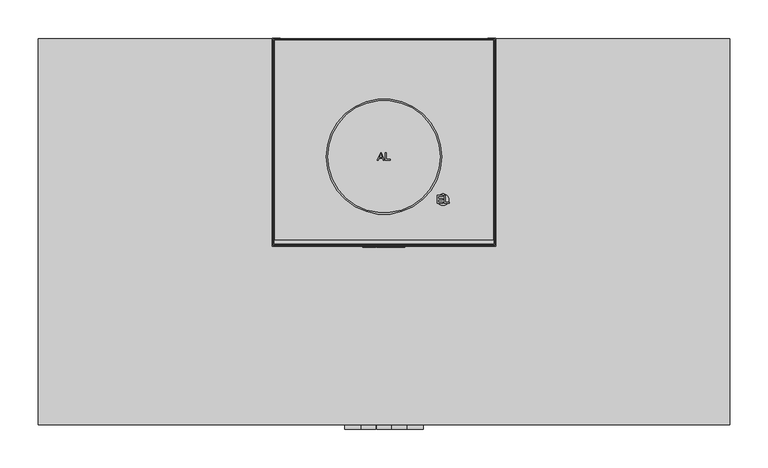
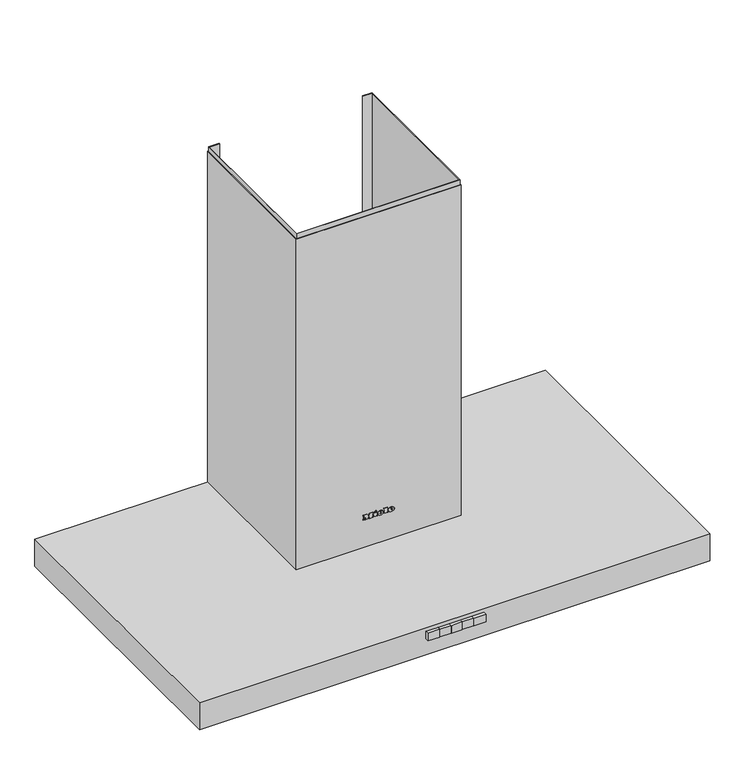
"""IFC4 building model written with IfcOpenShell, lengths in millimetres: proxy geometry, 12151130_F_DAW1920_EDST : 28W1920E_F_12151130_DAW1920_EDST."""

from ifc_helpers import new_model, si_unit, point, frame, frame_2d, origin, place, context, project, spatial, polyline, circle_curve, ellipse_curve, trimmed, segment, composite_curve, outline, extrude, faceted_brep, source, transform, mapped, element, save
from ifc_brep_helpers import plane_surface, cylinder_surface, revolved_surface, extruded_surface, advanced_brep


def specialty_equipment_0c9f008c(model_context):
    return source(origin(), model_context, "Body", "SolidModel", [
        advanced_brep(
        [(21.1132357, -270.9552709, 103.833006), (21.1132357, -270.9552709, 104.742006), (27.1342357, -270.9552709, 104.742006), (16.6582357, -270.9552709, 104.742006), (19.1332357, -270.9552709, 101.700006), (26.9812357, -270.9552709, 103.833006), (24.2632357, -270.9552709, 103.833006), (22.1212357, -270.9552709, 102.825006), (21.1132357, -270.9552709, 105.894006), (21.1132357, -270.9552709, 106.875006), (22.6522357, -270.9552709, 106.875006), (22.6522357, -270.9552709, 105.894006), (21.1132357, -269.9552709, 103.833006), (22.1212357, -269.9552709, 102.825006), (24.2632357, -269.9552709, 103.833006), (26.9812357, -269.9552709, 103.833006), (19.1332357, -269.9552709, 101.700006), (16.6582357, -269.9552709, 104.742006), (27.1342357, -269.9552709, 104.742006), (21.1132357, -269.9552709, 104.742006), (21.1132357, -269.9552709, 105.894006), (22.6522357, -269.9552709, 105.894006), (22.6522357, -269.9552709, 106.875006), (21.1132357, -269.9552709, 106.875006)],
        [
            (0, 1),
            (1, 2),
            (2, 3, ellipse_curve(frame((21.8962357, -270.9552709, 104.742006), z_axis=(0.0, -1.0, 0.0), x_axis=(-1.0, 0.0, 0.0)), 5.238, 4.329)),
            (3, 4, circle_curve(frame((20.1412848, -270.9552709, 105.048006), z_axis=(0.0, -1.0, 0.0), x_axis=(0.0, 0.0, -1.0)), 3.4964649)),
            (4, 5, circle_curve(frame((21.7913785, -270.9552709, 107.424006), z_axis=(0.0, -1.0, 0.0), x_axis=(0.0, 0.0, -1.0)), 6.3110933)),
            (5, 6),
            (6, 7, circle_curve(frame((22.5611769, -270.9552709, 104.670006), z_axis=(0.0, 1.0, 0.0), x_axis=(0.0, 0.0, -1.0)), 1.896727)),
            (7, 0, circle_curve(frame((22.1212357, -270.9552709, 103.833006), z_axis=(0.0, 1.0, 0.0), x_axis=(0.0, 0.0, -1.0)), 1.008)),
            (8, 9),
            (9, 10, circle_curve(frame((21.8827357, -270.9552709, 106.875006), z_axis=(0.0, 1.0, 0.0), x_axis=(0.0, 0.0, -1.0)), 0.7695)),
            (10, 11),
            (11, 8),
            (12, 13, circle_curve(frame((22.1212357, -269.9552709, 103.833006), z_axis=(0.0, -1.0, 0.0), x_axis=(0.0, 0.0, -1.0)), 1.008)),
            (13, 14, circle_curve(frame((22.5611769, -269.9552709, 104.670006), z_axis=(0.0, -1.0, 0.0), x_axis=(0.0, 0.0, -1.0)), 1.896727)),
            (14, 15),
            (15, 16, circle_curve(frame((21.7913785, -269.9552709, 107.424006), z_axis=(0.0, 1.0, 0.0), x_axis=(0.0, 0.0, -1.0)), 6.3110933)),
            (16, 17, circle_curve(frame((20.1412848, -269.9552709, 105.048006), z_axis=(0.0, 1.0, 0.0), x_axis=(0.0, 0.0, -1.0)), 3.4964649)),
            (17, 18, ellipse_curve(frame((21.8962357, -269.9552709, 104.742006), z_axis=(0.0, 1.0, 0.0), x_axis=(-1.0, 0.0, 0.0)), 5.238, 4.329)),
            (18, 19),
            (19, 12),
            (20, 21),
            (21, 22),
            (22, 23, circle_curve(frame((21.8827357, -269.9552709, 106.875006), z_axis=(0.0, -1.0, 0.0), x_axis=(0.0, 0.0, -1.0)), 0.7695)),
            (23, 20),
            (0, 12),
            (19, 1),
            (18, 2),
            (5, 15),
            (14, 6),
            (17, 3),
            (13, 7),
            (16, 4),
            (8, 20),
            (23, 9),
            (22, 10),
            (21, 11),
        ],
        [
            plane_surface(frame((21.1132357, -270.9552709, 104.742006), z_axis=(0.0, -1.0, 0.0), x_axis=(0.0, 0.0, 1.0))),
            plane_surface(frame((21.1132357, -269.9552709, 104.742006), z_axis=(0.0, 1.0, 0.0), x_axis=(0.0, 0.0, -1.0))),
            plane_surface(frame((21.1132357, -270.9552709, 103.833006), z_axis=(1.0, 0.0, 0.0), x_axis=(0.0, 1.0, 0.0))),
            plane_surface(frame((21.1132357, -270.9552709, 104.742006), z_axis=(0.0, 0.0, -1.0), x_axis=(0.0, 1.0, 0.0))),
            plane_surface(frame((26.9812357, -270.9552709, 103.833006), z_axis=(0.0, 0.0, 1.0), x_axis=(0.0, 1.0, 0.0))),
            extruded_surface(trimmed(ellipse_curve(frame((21.8962357, -268.9552709, 104.742006), z_axis=(0.0, -1.0, 0.0), x_axis=(-1.0, 0.0, 0.0)), 5.238, 4.329), [point((27.1342357, -268.9552709, 104.742006))], [point((16.6582357, -268.9552709, 104.742006))], True, "CARTESIAN"), (0.0, -1.0, 0.0), 1.0),
            revolved_surface(polyline([(22.5611769, -269.9552709, 102.773279), (22.5611769, -270.9552709, 102.773279)]), (22.5611769, -269.9552709, 104.670006), (0.0, 1.0, 0.0)),
            revolved_surface(polyline([(22.1212357, -269.9552709, 102.825006), (22.1212357, -270.9552709, 102.825006)]), (22.1212357, -269.9552709, 103.833006), (0.0, 1.0, 0.0)),
            cylinder_surface(frame((20.1412848, -269.9552709, 105.048006), z_axis=(0.0, -1.0, 0.0), x_axis=(0.0, 0.0, -1.0)), 3.4964649),
            cylinder_surface(frame((21.7913785, -269.9552709, 107.424006), z_axis=(0.0, -1.0, 0.0), x_axis=(0.0, 0.0, -1.0)), 6.3110933),
            plane_surface(frame((21.1132357, -270.9552709, 105.894006), z_axis=(1.0, 0.0, 0.0), x_axis=(0.0, 1.0, 0.0))),
            revolved_surface(polyline([(21.8827357, -269.9552709, 106.105506), (21.8827357, -270.9552709, 106.105506)]), (21.8827357, -269.9552709, 106.875006), (0.0, 1.0, 0.0)),
            plane_surface(frame((22.6522357, -270.9552709, 106.875006), z_axis=(-1.0, 0.0, 0.0), x_axis=(0.0, 1.0, 0.0))),
            plane_surface(frame((22.6522357, -270.9552709, 105.894006), z_axis=(0.0, 0.0, 1.0), x_axis=(0.0, 1.0, 0.0))),
        ],
        [
            (0, [[1, 2, 3, 4, 5, 6, 7, 8], [9, 10, 11, 12]]),
            (1, [[13, 14, 15, 16, 17, 18, 19, 20], [21, 22, 23, 24]]),
            (2, [[-1, 25, -20, 26]]),
            (3, [[-2, -26, -19, 27]]),
            (4, [[-6, 28, -15, 29]]),
            (5, [[-3, -27, -18, 30]]),
            (6, [[-7, -29, -14, 31]]),
            (7, [[-8, -31, -13, -25]]),
            (8, [[-4, -30, -17, 32]]),
            (9, [[-5, -32, -16, -28]]),
            (10, [[-9, 33, -24, 34]]),
            (11, [[-10, -34, -23, 35]]),
            (12, [[-11, -35, -22, 36]]),
            (13, [[-12, -36, -21, -33]]),
        ],
    ),
        advanced_brep(
        [(2.3302357, -270.9552709, 103.833006), (2.3302357, -270.9552709, 104.742006), (8.3512357, -270.9552709, 104.742006), (-2.1247643, -270.9552709, 104.742006), (0.3502357, -270.9552709, 101.700006), (8.1982357, -270.9552709, 103.833006), (5.4802357, -270.9552709, 103.833006), (3.3382357, -270.9552709, 102.825006), (2.3302357, -270.9552709, 105.894006), (2.3302357, -270.9552709, 106.875006), (3.8692357, -270.9552709, 106.875006), (3.8692357, -270.9552709, 105.894006), (2.3302357, -269.9552709, 103.833006), (3.3382357, -269.9552709, 102.825006), (5.4802357, -269.9552709, 103.833006), (8.1982357, -269.9552709, 103.833006), (0.3502357, -269.9552709, 101.700006), (-2.1247643, -269.9552709, 104.742006), (8.3512357, -269.9552709, 104.742006), (2.3302357, -269.9552709, 104.742006), (2.3302357, -269.9552709, 105.894006), (3.8692357, -269.9552709, 105.894006), (3.8692357, -269.9552709, 106.875006), (2.3302357, -269.9552709, 106.875006)],
        [
            (0, 1),
            (1, 2),
            (2, 3, ellipse_curve(frame((3.1132357, -270.9552709, 104.742006), z_axis=(0.0, -1.0, 0.0), x_axis=(-1.0, 0.0, 0.0)), 5.238, 4.329)),
            (3, 4, circle_curve(frame((1.3582848, -270.9552709, 105.048006), z_axis=(0.0, -1.0, 0.0), x_axis=(0.0, 0.0, -1.0)), 3.4964649)),
            (4, 5, circle_curve(frame((3.0083785, -270.9552709, 107.424006), z_axis=(0.0, -1.0, 0.0), x_axis=(0.0, 0.0, -1.0)), 6.3110933)),
            (5, 6),
            (6, 7, circle_curve(frame((3.7781769, -270.9552709, 104.670006), z_axis=(0.0, 1.0, 0.0), x_axis=(0.0, 0.0, -1.0)), 1.896727)),
            (7, 0, circle_curve(frame((3.3382357, -270.9552709, 103.833006), z_axis=(0.0, 1.0, 0.0), x_axis=(0.0, 0.0, -1.0)), 1.008)),
            (8, 9),
            (9, 10, circle_curve(frame((3.0997357, -270.9552709, 106.875006), z_axis=(0.0, 1.0, 0.0), x_axis=(0.0, 0.0, -1.0)), 0.7695)),
            (10, 11),
            (11, 8),
            (12, 13, circle_curve(frame((3.3382357, -269.9552709, 103.833006), z_axis=(0.0, -1.0, 0.0), x_axis=(0.0, 0.0, -1.0)), 1.008)),
            (13, 14, circle_curve(frame((3.7781769, -269.9552709, 104.670006), z_axis=(0.0, -1.0, 0.0), x_axis=(0.0, 0.0, -1.0)), 1.896727)),
            (14, 15),
            (15, 16, circle_curve(frame((3.0083785, -269.9552709, 107.424006), z_axis=(0.0, 1.0, 0.0), x_axis=(0.0, 0.0, -1.0)), 6.3110933)),
            (16, 17, circle_curve(frame((1.3582848, -269.9552709, 105.048006), z_axis=(0.0, 1.0, 0.0), x_axis=(0.0, 0.0, -1.0)), 3.4964649)),
            (17, 18, ellipse_curve(frame((3.1132357, -269.9552709, 104.742006), z_axis=(0.0, 1.0, 0.0), x_axis=(-1.0, 0.0, 0.0)), 5.238, 4.329)),
            (18, 19),
            (19, 12),
            (20, 21),
            (21, 22),
            (22, 23, circle_curve(frame((3.0997357, -269.9552709, 106.875006), z_axis=(0.0, -1.0, 0.0), x_axis=(0.0, 0.0, -1.0)), 0.7695)),
            (23, 20),
            (0, 12),
            (19, 1),
            (18, 2),
            (5, 15),
            (14, 6),
            (17, 3),
            (13, 7),
            (16, 4),
            (8, 20),
            (23, 9),
            (22, 10),
            (21, 11),
        ],
        [
            plane_surface(frame((2.3302357, -270.9552709, 104.742006), z_axis=(0.0, -1.0, 0.0), x_axis=(0.0, 0.0, 1.0))),
            plane_surface(frame((2.3302357, -269.9552709, 104.742006), z_axis=(0.0, 1.0, 0.0), x_axis=(0.0, 0.0, -1.0))),
            plane_surface(frame((2.3302357, -270.9552709, 103.833006), z_axis=(1.0, 0.0, 0.0), x_axis=(0.0, 1.0, 0.0))),
            plane_surface(frame((2.3302357, -270.9552709, 104.742006), z_axis=(0.0, 0.0, -1.0), x_axis=(0.0, 1.0, 0.0))),
            plane_surface(frame((8.1982357, -270.9552709, 103.833006), z_axis=(0.0, 0.0, 1.0), x_axis=(0.0, 1.0, 0.0))),
            extruded_surface(trimmed(ellipse_curve(frame((3.1132357, -268.9552709, 104.742006), z_axis=(0.0, -1.0, 0.0), x_axis=(-1.0, 0.0, 0.0)), 5.238, 4.329), [point((8.3512357, -268.9552709, 104.742006))], [point((-2.1247643, -268.9552709, 104.742006))], True, "CARTESIAN"), (0.0, -1.0, 0.0), 1.0),
            revolved_surface(polyline([(3.7781769, -269.9552709, 102.773279), (3.7781769, -270.9552709, 102.773279)]), (3.7781769, -269.9552709, 104.670006), (0.0, 1.0, 0.0)),
            revolved_surface(polyline([(3.3382357, -269.9552709, 102.825006), (3.3382357, -270.9552709, 102.825006)]), (3.3382357, -269.9552709, 103.833006), (0.0, 1.0, 0.0)),
            cylinder_surface(frame((1.3582848, -269.9552709, 105.048006), z_axis=(0.0, -1.0, 0.0), x_axis=(0.0, 0.0, -1.0)), 3.4964649),
            cylinder_surface(frame((3.0083785, -269.9552709, 107.424006), z_axis=(0.0, -1.0, 0.0), x_axis=(0.0, 0.0, -1.0)), 6.3110933),
            plane_surface(frame((2.3302357, -270.9552709, 105.894006), z_axis=(1.0, 0.0, 0.0), x_axis=(0.0, 1.0, 0.0))),
            revolved_surface(polyline([(3.0997357, -269.9552709, 106.105506), (3.0997357, -270.9552709, 106.105506)]), (3.0997357, -269.9552709, 106.875006), (0.0, 1.0, 0.0)),
            plane_surface(frame((3.8692357, -270.9552709, 106.875006), z_axis=(-1.0, 0.0, 0.0), x_axis=(0.0, 1.0, 0.0))),
            plane_surface(frame((3.8692357, -270.9552709, 105.894006), z_axis=(0.0, 0.0, 1.0), x_axis=(0.0, 1.0, 0.0))),
        ],
        [
            (0, [[1, 2, 3, 4, 5, 6, 7, 8], [9, 10, 11, 12]]),
            (1, [[13, 14, 15, 16, 17, 18, 19, 20], [21, 22, 23, 24]]),
            (2, [[-1, 25, -20, 26]]),
            (3, [[-2, -26, -19, 27]]),
            (4, [[-6, 28, -15, 29]]),
            (5, [[-3, -27, -18, 30]]),
            (6, [[-7, -29, -14, 31]]),
            (7, [[-8, -31, -13, -25]]),
            (8, [[-4, -30, -17, 32]]),
            (9, [[-5, -32, -16, -28]]),
            (10, [[-9, 33, -24, 34]]),
            (11, [[-10, -34, -23, 35]]),
            (12, [[-11, -35, -22, 36]]),
            (13, [[-12, -36, -21, -33]]),
        ],
    ),
        extrude(outline(polyline([(110.169006, -7.5067643), (108.711006, -6.8227643), (110.133006, -3.7717643), (111.591006, -4.4467643), (110.169006, -7.5067643)])), frame((0.0, -270.9552709, 0.0), z_axis=(0.0, 1.0, 0.0), x_axis=(0.0, 0.0, 1.0)), (0.0, 0.0, 1.0), 1.0),
        extrude(outline(polyline([(108.513006, -9.7297643), (106.902006, -9.7297643), (106.902006, -8.6587643), (103.212006, -8.6587643), (103.212006, -9.7297643), (101.700006, -9.7297643), (101.700006, -2.6287643), (103.212006, -2.6287643), (103.212006, -3.6727643), (108.513006, -3.6727643), (108.513006, -9.7297643)])), frame((0.0, -270.9552709, 0.0), z_axis=(0.0, 1.0, 0.0), x_axis=(0.0, 0.0, 1.0)), (0.0, 0.0, 1.0), 1.0),
        extrude(outline(polyline([(109.233006, 8.8552357), (109.233006, 9.9352357), (103.212006, 9.9352357), (103.212006, 8.8552357), (101.700006, 8.8552357), (101.700006, 16.1542357), (103.212006, 16.1542357), (103.212006, 15.0472357), (110.700006, 15.0472357), (110.700006, 8.8552357), (109.233006, 8.8552357)])), frame((0.0, -270.9552709, 0.0), z_axis=(0.0, 1.0, 0.0), x_axis=(0.0, 0.0, 1.0)), (0.0, 0.0, 1.0), 1.0),
        extrude(outline(polyline([(109.233006, -27.6667643), (109.233006, -26.5777643), (103.212006, -26.5777643), (103.212006, -27.6667643), (101.700006, -27.6667643), (101.700006, -23.7067643), (103.212006, -23.7067643), (103.212006, -24.7867643), (107.0341308, -24.7867643), (101.700006, -20.7637643), (107.1402283, -16.7227643), (103.212006, -16.7227643), (103.212006, -17.8297643), (101.700006, -17.8297643), (101.700006, -10.6477643), (103.212006, -10.6477643), (103.212006, -11.7907643), (109.233006, -11.7907643), (109.233006, -10.6477643), (110.700006, -10.6477643), (110.700006, -16.1287643), (107.325006, -18.7567643), (110.700006, -21.3937643), (110.700006, -27.6667643), (109.233006, -27.6667643)])), frame((0.0, -270.9552709, 0.0), z_axis=(0.0, 1.0, 0.0), x_axis=(0.0, 0.0, 1.0)), (0.0, 0.0, 1.0), 1.0),
        extrude(outline(polyline([(297.3, -444.6999706), (264.3, -444.6999706), (264.3, -398.7289627), (297.3, -398.7289627), (297.3, -444.6999706)]), holes=[polyline([(290.8, -415.7452067), (290.8, -405.7452067), (270.8, -405.7452067), (270.8, -415.7452067), (290.8, -415.7452067)])]), frame((0.0, 0.0, 2.5142839), z_axis=(0.0, 0.0, 1.0), x_axis=(1.0, 0.0, 0.0)), (0.0, 0.0, 1.0), 2.0),
        extrude(outline(polyline([(-18.3, -444.6999706), (-18.3, -399.6999706), (14.7, -399.6999706), (14.7, -444.6999706), (-18.3, -444.6999706)]), holes=[polyline([(-11.8, -415.6545073), (8.2, -415.6545073), (8.2, -405.6545073), (-11.8, -405.6545073), (-11.8, -415.6545073)])]), frame((0.0, 0.0, 2.5142839), z_axis=(0.0, 0.0, 1.0), x_axis=(1.0, 0.0, 0.0)), (0.0, 0.0, 1.0), 2.0),
        extrude(outline(polyline([(129.0, -444.6999706), (-131.0, -444.6999706), (-131.0, -24.6999706), (129.0, -24.6999706), (129.0, -444.6999706)])), frame((0.0, 0.0, 4.5142839), z_axis=(0.0, 0.0, 1.0), x_axis=(1.0, 0.0, 0.0)), (0.0, 0.0, 1.0), 4.6188552),
        extrude(outline(polyline([(411.0, -444.6999706), (149.0, -444.6999706), (149.0, -24.6999706), (411.0, -24.6999706), (411.0, -444.6999706)])), frame((0.0, 0.0, 4.5142839), z_axis=(0.0, 0.0, 1.0), x_axis=(1.0, 0.0, 0.0)), (0.0, 0.0, 1.0), 4.6188552),
        extrude(outline(polyline([(-265.7, -444.6999706), (-298.7, -444.6999706), (-298.7, -399.6999706), (-265.7, -399.6999706), (-265.7, -444.6999706)]), holes=[polyline([(-272.2, -415.6999706), (-272.2, -405.6999706), (-292.2, -405.6999706), (-292.2, -415.6999706), (-272.2, -415.6999706)])]), frame((0.0, 0.0, 2.5142839), z_axis=(0.0, 0.0, 1.0), x_axis=(1.0, 0.0, 0.0)), (0.0, 0.0, 1.0), 2.0),
        extrude(outline(polyline([(-150.25, -444.6999706), (-411.0, -444.6999706), (-411.0, -24.6999706), (-150.25, -24.6999706), (-150.25, -444.6999706)])), frame((0.0, 0.0, 4.5142839), z_axis=(0.0, 0.0, 1.0), x_axis=(1.0, 0.0, 0.0)), (0.0, 0.0, 1.0), 4.6188552),
        extrude(outline(polyline([(422.0, -14.6999706), (422.0, -454.6999706), (139.0, -454.6999706), (139.0, -14.6999706), (422.0, -14.6999706)]), holes=[polyline([(411.0, -24.6999706), (149.0, -24.6999706), (149.0, -444.6999706), (411.0, -444.6999706), (411.0, -24.6999706)])]), frame((0.0, 0.0, 2.5142839), z_axis=(0.0, 0.0, 1.0), x_axis=(1.0, 0.0, 0.0)), (0.0, 0.0, 1.0), 8.0),
        extrude(outline(polyline([(-141.0, -14.6999706), (139.0, -14.6999706), (139.0, -454.6999706), (-141.0, -454.6999706), (-141.0, -14.6999706)]), holes=[polyline([(-131.0, -24.6999706), (-131.0, -444.6999706), (129.0, -444.6999706), (129.0, -24.6999706), (-131.0, -24.6999706)])]), frame((0.0, 0.0, 2.5142839), z_axis=(0.0, 0.0, 1.0), x_axis=(1.0, 0.0, 0.0)), (0.0, 0.0, 1.0), 8.0),
        extrude(outline(polyline([(-141.0, -14.6999706), (-141.0, -454.6999706), (-422.0, -454.6999706), (-422.0, -14.6999706), (-141.0, -14.6999706)]), holes=[polyline([(-150.25, -24.6999706), (-411.0, -24.6999706), (-411.0, -444.6999706), (-150.25, -444.6999706), (-150.25, -24.6999706)])]), frame((0.0, 0.0, 2.5142839), z_axis=(0.0, 0.0, 1.0), x_axis=(1.0, 0.0, 0.0)), (0.0, 0.0, 1.0), 8.0),
        extrude(outline(polyline([(-8.547125, -158.4497039), (-4.5372113, -148.4040729), (-3.4679009, -148.4040729), (0.5420128, -158.4497039), (-0.7848149, -158.4497039), (-1.9350593, -155.3104442), (-6.0725055, -155.3104442), (-7.2202973, -158.4497039), (-8.547125, -158.4497039)]), holes=[polyline([(-5.6114267, -154.0547404), (-2.3936855, -154.0547404), (-3.2986752, -151.5850259), (-4.0025561, -149.6597768), (-4.6279555, -151.3692018), (-5.6114267, -154.0547404)])]), frame((0.0, 0.0, 363.7204361), z_axis=(0.0, 0.0, 1.0), x_axis=(1.0, 0.0, 0.0)), (0.0, 0.0, 1.0), 1.0),
        extrude(outline(polyline([(1.8835558, -158.4497039), (1.8835558, -148.4040729), (3.1392597, -148.4040729), (3.1392597, -157.194), (8.1620752, -157.194), (8.1620752, -158.4497039), (1.8835558, -158.4497039)])), frame((0.0, 0.0, 363.7204361), z_axis=(0.0, 0.0, 1.0), x_axis=(1.0, 0.0, 0.0)), (0.0, 0.0, 1.0), 1.0),
        extrude(outline(polyline([(126.8315925, -0.6756569), (126.8315925, -1.8), (-125.3469318, -1.8), (-125.3469318, -0.6756569), (126.8315925, -0.6756569)])), frame((0.0, 0.0, 329.2146808), z_axis=(0.0, 0.0, 1.0), x_axis=(1.0, 0.0, 0.0)), (0.0, 0.0, 1.0), 44.4181046),
        extrude(outline(composite_curve([segment(trimmed(circle_curve(frame_2d((0.0, -153.4497039)), 75.0), [point((-75.0, -153.4497039))], [point((75.0, -153.4497039))], False, "CARTESIAN"), True, "CONTINUOUS"), segment(trimmed(circle_curve(frame_2d((0.0, -153.4497039)), 75.0), [point((75.0, -153.4497039))], [point((-75.0, -153.4497039))], False, "CARTESIAN"), True, "CONTINUOUS")], self_intersect=False), holes=[composite_curve([segment(trimmed(circle_curve(frame_2d((0.0, -153.4497039)), 73.0), [point((-73.0, -153.4497039))], [point((73.0, -153.4497039))], True, "CARTESIAN"), True, "CONTINUOUS"), segment(trimmed(circle_curve(frame_2d((0.0, -153.4497039)), 73.0), [point((73.0, -153.4497039))], [point((-73.0, -153.4497039))], True, "CARTESIAN"), True, "CONTINUOUS")], self_intersect=False)]), frame((0.0, 0.0, 329.2146808), z_axis=(0.0, 0.0, 1.0), x_axis=(1.0, 0.0, 0.0)), (0.0, 0.0, 1.0), 34.5057553),
        extrude(outline(polyline([(141.6999908, -1.8), (141.6999908, -261.3684259), (-141.6505435, -261.3684259), (-141.6505435, -1.8), (141.6999908, -1.8)])), frame((0.0, 0.0, 50.0), z_axis=(0.0, 0.0, 1.0), x_axis=(1.0, 0.0, 0.0)), (0.0, 0.0, 1.0), 279.2146808),
        extrude(outline(polyline([(119.0499925, -472.5999789), (119.0499925, -485.2000092), (-119.2499968, -485.2000092), (-119.2499968, -472.5999789), (119.0499925, -472.5999789)])), frame((0.0, 0.0, -2.4874173), z_axis=(0.0, 0.0, 1.0), x_axis=(1.0, 0.0, 0.0)), (0.0, 0.0, 1.0), 0.8016802),
        extrude(outline(polyline([(125.0000018, -465.8999882), (125.0000018, -491.9), (-125.0000001, -491.9), (-125.0000001, -465.8999882), (125.0000018, -465.8999882)])), frame((0.0, 0.0, -2.2857372), z_axis=(0.0, 0.0, 1.0), x_axis=(1.0, 0.0, 0.0)), (0.0, 0.0, 1.0), 2.2857372),
        faceted_brep([(-143.7500547, -0.8, 673.0), (-143.7500547, -268.0552779, 673.0), (143.7499475, -268.0552779, 673.0), (143.7499475, -0.8, 673.0), (126.8315925, -0.8, 673.0), (126.8315925, -1.8, 673.0), (143.1499568, -1.8, 673.0), (143.1499568, -267.4552782, 673.0), (-143.1500459, -267.4552782, 673.0), (-143.1500459, -1.8, 673.0), (-125.3469318, -1.8, 673.0), (-125.3469318, -0.8, 673.0), (-143.7500547, -0.8, 197.2146808), (-125.3469318, -0.8, 197.2146808), (-125.3469318, -1.8, 197.2146808), (-143.1500459, -1.8, 197.2146808), (-143.1500459, -267.4552782, 197.2146808), (143.1499568, -267.4552782, 197.2146808), (143.1499568, -1.8, 197.2146808), (126.8315925, -1.8, 197.2146808), (126.8315925, -0.8, 197.2146808), (143.7499475, -0.8, 197.2146808), (143.7499475, -268.0552779, 197.2146808), (-143.7500547, -268.0552779, 197.2146808), (-143.7500547, -75.0, 329.2146808), (-143.7500547, -75.0, 234.2146808), (-143.7500547, -70.0, 234.2146808), (-143.7500547, -70.0, 329.2146808), (-143.7500547, -60.0, 329.2146808), (-143.7500547, -60.0, 234.2146808), (-143.7500547, -55.0, 234.2146808), (-143.7500547, -55.0, 329.2146808), (-143.7500547, -45.0, 329.2146808), (-143.7500547, -45.0, 234.2146808), (-143.7500547, -40.0, 234.2146808), (-143.7500547, -40.0, 329.2146808), (-143.7500547, -30.0, 329.2146808), (-143.7500547, -30.0, 234.2146808), (-143.7500547, -25.0, 234.2146808), (-143.7500547, -25.0, 329.2146808), (-143.7500547, -190.0, 234.2146808), (-143.7500547, -190.0, 329.2146808), (-143.7500547, -195.0, 329.2146808), (-143.7500547, -195.0, 234.2146808), (-143.7500547, -205.0, 234.2146808), (-143.7500547, -205.0, 329.2146808), (-143.7500547, -210.0, 329.2146808), (-143.7500547, -210.0, 234.2146808), (-143.7500547, -220.0, 234.2146808), (-143.7500547, -220.0, 329.2146808), (-143.7500547, -225.0, 329.2146808), (-143.7500547, -225.0, 234.2146808), (-143.7500547, -235.0, 234.2146808), (-143.7500547, -235.0, 329.2146808), (-143.7500547, -240.0, 329.2146808), (-143.7500547, -240.0, 234.2146808), (-143.7500547, -250.0, 234.2146808), (-143.7500547, -250.0, 329.2146808), (-143.7500547, -255.0, 329.2146808), (-143.7500547, -255.0, 234.2146808), (-143.7500547, -15.0, 329.2146808), (-143.7500547, -15.0, 234.2146808), (-143.7500547, -10.0, 234.2146808), (-143.7500547, -10.0, 329.2146808), (-143.7500547, -135.0, 329.2146808), (-143.7500547, -135.0, 234.2146808), (-143.7500547, -130.0, 234.2146808), (-143.7500547, -130.0, 329.2146808), (-143.7500547, -160.0, 234.2146808), (-143.7500547, -160.0, 329.2146808), (-143.7500547, -165.0, 329.2146808), (-143.7500547, -165.0, 234.2146808), (-143.7500547, -175.0, 234.2146808), (-143.7500547, -175.0, 329.2146808), (-143.7500547, -180.0, 329.2146808), (-143.7500547, -180.0, 234.2146808), (-143.7500547, -120.0, 329.2146808), (-143.7500547, -120.0, 234.2146808), (-143.7500547, -115.0, 234.2146808), (-143.7500547, -115.0, 329.2146808), (-143.7500547, -105.0, 329.2146808), (-143.7500547, -105.0, 234.2146808), (-143.7500547, -100.0, 234.2146808), (-143.7500547, -100.0, 329.2146808), (-143.7500547, -90.0, 329.2146808), (-143.7500547, -90.0, 234.2146808), (-143.7500547, -85.0, 234.2146808), (-143.7500547, -85.0, 329.2146808), (-143.7500547, -145.0, 234.2146808), (-143.7500547, -145.0, 329.2146808), (-143.7500547, -150.0, 329.2146808), (-143.7500547, -150.0, 234.2146808), (-83.4489473, -268.0552779, 329.2146808), (-78.4440871, -268.0552779, 329.2146808), (-78.4440871, -268.0552779, 234.2146808), (-83.4489473, -268.0552779, 234.2146808), (-68.4489473, -268.0552779, 329.2146808), (-63.4440871, -268.0552779, 329.2146808), (-63.4440871, -268.0552779, 234.2146808), (-68.4489473, -268.0552779, 234.2146808), (-53.4489473, -268.0552779, 329.2146808), (-48.4440871, -268.0552779, 329.2146808), (-48.4440871, -268.0552779, 234.2146808), (-53.4489473, -268.0552779, 234.2146808), (-38.4489473, -268.0552779, 329.2146808), (-33.4440871, -268.0552779, 329.2146808), (-33.4440871, -268.0552779, 234.2146808), (-38.4489473, -268.0552779, 234.2146808), (-23.4489473, -268.0552779, 329.2146808), (-18.4440871, -268.0552779, 329.2146808), (-18.4440871, -268.0552779, 234.2146808), (-23.4489473, -268.0552779, 234.2146808), (-98.4489473, -268.0552779, 329.2146808), (-93.4440871, -268.0552779, 329.2146808), (-93.4440871, -268.0552779, 234.2146808), (-98.4489473, -268.0552779, 234.2146808), (-113.4489473, -268.0552779, 329.2146808), (-108.4440871, -268.0552779, 329.2146808), (-108.4440871, -268.0552779, 234.2146808), (-113.4489473, -268.0552779, 234.2146808), (-8.4489473, -268.0552779, 329.2146808), (-3.4440871, -268.0552779, 329.2146808), (-3.4440871, -268.0552779, 234.2146808), (-8.4489473, -268.0552779, 234.2146808), (6.5510527, -268.0552779, 329.2146808), (11.5559129, -268.0552779, 329.2146808), (11.5559129, -268.0552779, 234.2146808), (6.5510527, -268.0552779, 234.2146808), (21.5510527, -268.0552779, 329.2146808), (26.5559129, -268.0552779, 329.2146808), (26.5559129, -268.0552779, 234.2146808), (21.5510527, -268.0552779, 234.2146808), (36.5510527, -268.0552779, 329.2146808), (41.5559129, -268.0552779, 329.2146808), (41.5559129, -268.0552779, 234.2146808), (36.5510527, -268.0552779, 234.2146808), (51.5510527, -268.0552779, 329.2146808), (56.5559129, -268.0552779, 329.2146808), (56.5559129, -268.0552779, 234.2146808), (51.5510527, -268.0552779, 234.2146808), (66.5510527, -268.0552779, 329.2146808), (71.5559129, -268.0552779, 329.2146808), (71.5559129, -268.0552779, 234.2146808), (66.5510527, -268.0552779, 234.2146808), (81.5510527, -268.0552779, 329.2146808), (86.5559129, -268.0552779, 329.2146808), (86.5559129, -268.0552779, 234.2146808), (81.5510527, -268.0552779, 234.2146808), (96.5510527, -268.0552779, 329.2146808), (101.5559129, -268.0552779, 329.2146808), (101.5559129, -268.0552779, 234.2146808), (96.5510527, -268.0552779, 234.2146808), (126.5510527, -268.0552779, 329.2146808), (131.5559129, -268.0552779, 329.2146808), (131.5559129, -268.0552779, 234.2146808), (126.5510527, -268.0552779, 234.2146808), (-128.4489473, -268.0552779, 329.2146808), (-123.4440871, -268.0552779, 329.2146808), (-123.4440871, -268.0552779, 234.2146808), (-128.4489473, -268.0552779, 234.2146808), (111.5510527, -268.0552779, 329.2146808), (116.5559129, -268.0552779, 329.2146808), (116.5559129, -268.0552779, 234.2146808), (111.5510527, -268.0552779, 234.2146808), (143.7499475, -205.0, 329.2146808), (143.7499475, -205.0, 234.2146808), (143.7499475, -210.0, 234.2146808), (143.7499475, -210.0, 329.2146808), (143.7499475, -220.0, 329.2146808), (143.7499475, -220.0, 234.2146808), (143.7499475, -225.0, 234.2146808), (143.7499475, -225.0, 329.2146808), (143.7499475, -45.0, 234.2146808), (143.7499475, -45.0, 329.2146808), (143.7499475, -40.0, 329.2146808), (143.7499475, -40.0, 234.2146808), (143.7499475, -30.0, 234.2146808), (143.7499475, -30.0, 329.2146808), (143.7499475, -25.0, 329.2146808), (143.7499475, -25.0, 234.2146808), (143.7499475, -235.0, 329.2146808), (143.7499475, -235.0, 234.2146808), (143.7499475, -240.0, 234.2146808), (143.7499475, -240.0, 329.2146808), (143.7499475, -250.0, 329.2146808), (143.7499475, -250.0, 234.2146808), (143.7499475, -255.0, 234.2146808), (143.7499475, -255.0, 329.2146808), (143.7499475, -120.0, 234.2146808), (143.7499475, -120.0, 329.2146808), (143.7499475, -115.0, 329.2146808), (143.7499475, -115.0, 234.2146808), (143.7499475, -145.0, 329.2146808), (143.7499475, -145.0, 234.2146808), (143.7499475, -150.0, 234.2146808), (143.7499475, -150.0, 329.2146808), (143.7499475, -135.0, 234.2146808), (143.7499475, -135.0, 329.2146808), (143.7499475, -130.0, 329.2146808), (143.7499475, -130.0, 234.2146808), (143.7499475, -160.0, 329.2146808), (143.7499475, -160.0, 234.2146808), (143.7499475, -165.0, 234.2146808), (143.7499475, -165.0, 329.2146808), (143.7499475, -175.0, 329.2146808), (143.7499475, -175.0, 234.2146808), (143.7499475, -180.0, 234.2146808), (143.7499475, -180.0, 329.2146808), (143.7499475, -105.0, 234.2146808), (143.7499475, -105.0, 329.2146808), (143.7499475, -100.0, 329.2146808), (143.7499475, -100.0, 234.2146808), (143.7499475, -90.0, 234.2146808), (143.7499475, -90.0, 329.2146808), (143.7499475, -85.0, 329.2146808), (143.7499475, -85.0, 234.2146808), (143.7499475, -190.0, 329.2146808), (143.7499475, -190.0, 234.2146808), (143.7499475, -195.0, 234.2146808), (143.7499475, -195.0, 329.2146808), (143.7499475, -60.0, 234.2146808), (143.7499475, -60.0, 329.2146808), (143.7499475, -55.0, 329.2146808), (143.7499475, -55.0, 234.2146808), (143.7499475, -75.0, 234.2146808), (143.7499475, -75.0, 329.2146808), (143.7499475, -70.0, 329.2146808), (143.7499475, -70.0, 234.2146808), (143.7499475, -15.0, 234.2146808), (143.7499475, -15.0, 329.2146808), (143.7499475, -10.0, 329.2146808), (143.7499475, -10.0, 234.2146808), (143.1499568, -190.0, 234.2146808), (143.1499568, -190.0, 329.2146808), (143.1499568, -195.0, 329.2146808), (143.1499568, -195.0, 234.2146808), (143.1499568, -205.0, 234.2146808), (143.1499568, -205.0, 329.2146808), (143.1499568, -210.0, 329.2146808), (143.1499568, -210.0, 234.2146808), (143.1499568, -60.0, 329.2146808), (143.1499568, -60.0, 234.2146808), (143.1499568, -55.0, 234.2146808), (143.1499568, -55.0, 329.2146808), (143.1499568, -120.0, 329.2146808), (143.1499568, -120.0, 234.2146808), (143.1499568, -115.0, 234.2146808), (143.1499568, -115.0, 329.2146808), (143.1499568, -145.0, 234.2146808), (143.1499568, -145.0, 329.2146808), (143.1499568, -150.0, 329.2146808), (143.1499568, -150.0, 234.2146808), (143.1499568, -135.0, 329.2146808), (143.1499568, -135.0, 234.2146808), (143.1499568, -130.0, 234.2146808), (143.1499568, -130.0, 329.2146808), (143.1499568, -160.0, 234.2146808), (143.1499568, -160.0, 329.2146808), (143.1499568, -165.0, 329.2146808), (143.1499568, -165.0, 234.2146808), (143.1499568, -175.0, 234.2146808), (143.1499568, -175.0, 329.2146808), (143.1499568, -180.0, 329.2146808), (143.1499568, -180.0, 234.2146808), (143.1499568, -105.0, 329.2146808), (143.1499568, -105.0, 234.2146808), (143.1499568, -100.0, 234.2146808), (143.1499568, -100.0, 329.2146808), (143.1499568, -90.0, 329.2146808), (143.1499568, -90.0, 234.2146808), (143.1499568, -85.0, 234.2146808), (143.1499568, -85.0, 329.2146808), (143.1499568, -220.0, 234.2146808), (143.1499568, -220.0, 329.2146808), (143.1499568, -225.0, 329.2146808), (143.1499568, -225.0, 234.2146808), (143.1499568, -45.0, 329.2146808), (143.1499568, -45.0, 234.2146808), (143.1499568, -40.0, 234.2146808), (143.1499568, -40.0, 329.2146808), (143.1499568, -30.0, 329.2146808), (143.1499568, -30.0, 234.2146808), (143.1499568, -25.0, 234.2146808), (143.1499568, -25.0, 329.2146808), (143.1499568, -75.0, 329.2146808), (143.1499568, -75.0, 234.2146808), (143.1499568, -70.0, 234.2146808), (143.1499568, -70.0, 329.2146808), (143.1499568, -235.0, 234.2146808), (143.1499568, -235.0, 329.2146808), (143.1499568, -240.0, 329.2146808), (143.1499568, -240.0, 234.2146808), (143.1499568, -250.0, 234.2146808), (143.1499568, -250.0, 329.2146808), (143.1499568, -255.0, 329.2146808), (143.1499568, -255.0, 234.2146808), (143.1499568, -15.0, 329.2146808), (143.1499568, -15.0, 234.2146808), (143.1499568, -10.0, 234.2146808), (143.1499568, -10.0, 329.2146808), (-78.4440871, -267.4552782, 329.2146808), (-83.4489473, -267.4552782, 329.2146808), (-83.4489473, -267.4552782, 234.2146808), (-78.4440871, -267.4552782, 234.2146808), (-63.4440871, -267.4552782, 329.2146808), (-68.4489473, -267.4552782, 329.2146808), (-68.4489473, -267.4552782, 234.2146808), (-63.4440871, -267.4552782, 234.2146808), (-48.4440871, -267.4552782, 329.2146808), (-53.4489473, -267.4552782, 329.2146808), (-53.4489473, -267.4552782, 234.2146808), (-48.4440871, -267.4552782, 234.2146808), (-33.4440871, -267.4552782, 329.2146808), (-38.4489473, -267.4552782, 329.2146808), (-38.4489473, -267.4552782, 234.2146808), (-33.4440871, -267.4552782, 234.2146808), (-18.4440871, -267.4552782, 329.2146808), (-23.4489473, -267.4552782, 329.2146808), (-23.4489473, -267.4552782, 234.2146808), (-18.4440871, -267.4552782, 234.2146808), (-93.4440871, -267.4552782, 329.2146808), (-98.4489473, -267.4552782, 329.2146808), (-98.4489473, -267.4552782, 234.2146808), (-93.4440871, -267.4552782, 234.2146808), (-108.4440871, -267.4552782, 329.2146808), (-113.4489473, -267.4552782, 329.2146808), (-113.4489473, -267.4552782, 234.2146808), (-108.4440871, -267.4552782, 234.2146808), (-3.4440871, -267.4552782, 329.2146808), (-8.4489473, -267.4552782, 329.2146808), (-8.4489473, -267.4552782, 234.2146808), (-3.4440871, -267.4552782, 234.2146808), (11.5559129, -267.4552782, 329.2146808), (6.5510527, -267.4552782, 329.2146808), (6.5510527, -267.4552782, 234.2146808), (11.5559129, -267.4552782, 234.2146808), (26.5559129, -267.4552782, 329.2146808), (21.5510527, -267.4552782, 329.2146808), (21.5510527, -267.4552782, 234.2146808), (26.5559129, -267.4552782, 234.2146808), (41.5559129, -267.4552782, 329.2146808), (36.5510527, -267.4552782, 329.2146808), (36.5510527, -267.4552782, 234.2146808), (41.5559129, -267.4552782, 234.2146808), (56.5559129, -267.4552782, 329.2146808), (51.5510527, -267.4552782, 329.2146808), (51.5510527, -267.4552782, 234.2146808), (56.5559129, -267.4552782, 234.2146808), (71.5559129, -267.4552782, 329.2146808), (66.5510527, -267.4552782, 329.2146808), (66.5510527, -267.4552782, 234.2146808), (71.5559129, -267.4552782, 234.2146808), (86.5559129, -267.4552782, 329.2146808), (81.5510527, -267.4552782, 329.2146808), (81.5510527, -267.4552782, 234.2146808), (86.5559129, -267.4552782, 234.2146808), (101.5559129, -267.4552782, 329.2146808), (96.5510527, -267.4552782, 329.2146808), (96.5510527, -267.4552782, 234.2146808), (101.5559129, -267.4552782, 234.2146808), (116.5559129, -267.4552782, 329.2146808), (111.5510527, -267.4552782, 329.2146808), (111.5510527, -267.4552782, 234.2146808), (116.5559129, -267.4552782, 234.2146808), (131.5559129, -267.4552782, 329.2146808), (126.5510527, -267.4552782, 329.2146808), (126.5510527, -267.4552782, 234.2146808), (131.5559129, -267.4552782, 234.2146808), (-123.4440871, -267.4552782, 329.2146808), (-128.4489473, -267.4552782, 329.2146808), (-128.4489473, -267.4552782, 234.2146808), (-123.4440871, -267.4552782, 234.2146808), (-143.1500459, -135.0, 234.2146808), (-143.1500459, -135.0, 329.2146808), (-143.1500459, -130.0, 329.2146808), (-143.1500459, -130.0, 234.2146808), (-143.1500459, -160.0, 329.2146808), (-143.1500459, -160.0, 234.2146808), (-143.1500459, -165.0, 234.2146808), (-143.1500459, -165.0, 329.2146808), (-143.1500459, -175.0, 329.2146808), (-143.1500459, -175.0, 234.2146808), (-143.1500459, -180.0, 234.2146808), (-143.1500459, -180.0, 329.2146808), (-143.1500459, -120.0, 234.2146808), (-143.1500459, -120.0, 329.2146808), (-143.1500459, -115.0, 329.2146808), (-143.1500459, -115.0, 234.2146808), (-143.1500459, -105.0, 234.2146808), (-143.1500459, -105.0, 329.2146808), (-143.1500459, -100.0, 329.2146808), (-143.1500459, -100.0, 234.2146808), (-143.1500459, -90.0, 234.2146808), (-143.1500459, -90.0, 329.2146808), (-143.1500459, -85.0, 329.2146808), (-143.1500459, -85.0, 234.2146808), (-143.1500459, -145.0, 329.2146808), (-143.1500459, -145.0, 234.2146808), (-143.1500459, -150.0, 234.2146808), (-143.1500459, -150.0, 329.2146808), (-143.1500459, -75.0, 234.2146808), (-143.1500459, -75.0, 329.2146808), (-143.1500459, -70.0, 329.2146808), (-143.1500459, -70.0, 234.2146808), (-143.1500459, -60.0, 234.2146808), (-143.1500459, -60.0, 329.2146808), (-143.1500459, -55.0, 329.2146808), (-143.1500459, -55.0, 234.2146808), (-143.1500459, -45.0, 234.2146808), (-143.1500459, -45.0, 329.2146808), (-143.1500459, -40.0, 329.2146808), (-143.1500459, -40.0, 234.2146808), (-143.1500459, -30.0, 234.2146808), (-143.1500459, -30.0, 329.2146808), (-143.1500459, -25.0, 329.2146808), (-143.1500459, -25.0, 234.2146808), (-143.1500459, -190.0, 329.2146808), (-143.1500459, -190.0, 234.2146808), (-143.1500459, -195.0, 234.2146808), (-143.1500459, -195.0, 329.2146808), (-143.1500459, -205.0, 329.2146808), (-143.1500459, -205.0, 234.2146808), (-143.1500459, -210.0, 234.2146808), (-143.1500459, -210.0, 329.2146808), (-143.1500459, -220.0, 329.2146808), (-143.1500459, -220.0, 234.2146808), (-143.1500459, -225.0, 234.2146808), (-143.1500459, -225.0, 329.2146808), (-143.1500459, -235.0, 329.2146808), (-143.1500459, -235.0, 234.2146808), (-143.1500459, -240.0, 234.2146808), (-143.1500459, -240.0, 329.2146808), (-143.1500459, -250.0, 329.2146808), (-143.1500459, -250.0, 234.2146808), (-143.1500459, -255.0, 234.2146808), (-143.1500459, -255.0, 329.2146808), (-143.1500459, -15.0, 234.2146808), (-143.1500459, -15.0, 329.2146808), (-143.1500459, -10.0, 329.2146808), (-143.1500459, -10.0, 234.2146808)], [[[0, 1, 2, 3, 4, 5, 6, 7, 8, 9, 10, 11]], [[12, 13, 14, 15, 16, 17, 18, 19, 20, 21, 22, 23]], [[1, 0, 12, 23], [24, 25, 26, 27], [28, 29, 30, 31], [32, 33, 34, 35], [36, 37, 38, 39], [40, 41, 42, 43], [44, 45, 46, 47], [48, 49, 50, 51], [52, 53, 54, 55], [56, 57, 58, 59], [60, 61, 62, 63], [64, 65, 66, 67], [68, 69, 70, 71], [72, 73, 74, 75], [76, 77, 78, 79], [80, 81, 82, 83], [84, 85, 86, 87], [88, 89, 90, 91]], [[2, 1, 23, 22], [92, 93, 94, 95], [96, 97, 98, 99], [100, 101, 102, 103], [104, 105, 106, 107], [108, 109, 110, 111], [112, 113, 114, 115], [116, 117, 118, 119], [120, 121, 122, 123], [124, 125, 126, 127], [128, 129, 130, 131], [132, 133, 134, 135], [136, 137, 138, 139], [140, 141, 142, 143], [144, 145, 146, 147], [148, 149, 150, 151], [152, 153, 154, 155], [156, 157, 158, 159], [160, 161, 162, 163]], [[3, 2, 22, 21], [164, 165, 166, 167], [168, 169, 170, 171], [172, 173, 174, 175], [176, 177, 178, 179], [180, 181, 182, 183], [184, 185, 186, 187], [188, 189, 190, 191], [192, 193, 194, 195], [196, 197, 198, 199], [200, 201, 202, 203], [204, 205, 206, 207], [208, 209, 210, 211], [212, 213, 214, 215], [216, 217, 218, 219], [220, 221, 222, 223], [224, 225, 226, 227], [228, 229, 230, 231]], [[4, 3, 21, 20]], [[5, 4, 20, 19]], [[6, 5, 19, 18]], [[7, 6, 18, 17], [232, 233, 234, 235], [236, 237, 238, 239], [240, 241, 242, 243], [244, 245, 246, 247], [248, 249, 250, 251], [252, 253, 254, 255], [256, 257, 258, 259], [260, 261, 262, 263], [264, 265, 266, 267], [268, 269, 270, 271], [272, 273, 274, 275], [276, 277, 278, 279], [280, 281, 282, 283], [284, 285, 286, 287], [288, 289, 290, 291], [292, 293, 294, 295], [296, 297, 298, 299]], [[8, 7, 17, 16], [300, 301, 302, 303], [304, 305, 306, 307], [308, 309, 310, 311], [312, 313, 314, 315], [316, 317, 318, 319], [320, 321, 322, 323], [324, 325, 326, 327], [328, 329, 330, 331], [332, 333, 334, 335], [336, 337, 338, 339], [340, 341, 342, 343], [344, 345, 346, 347], [348, 349, 350, 351], [352, 353, 354, 355], [356, 357, 358, 359], [360, 361, 362, 363], [364, 365, 366, 367], [368, 369, 370, 371]], [[9, 8, 16, 15], [372, 373, 374, 375], [376, 377, 378, 379], [380, 381, 382, 383], [384, 385, 386, 387], [388, 389, 390, 391], [392, 393, 394, 395], [396, 397, 398, 399], [400, 401, 402, 403], [404, 405, 406, 407], [408, 409, 410, 411], [412, 413, 414, 415], [416, 417, 418, 419], [420, 421, 422, 423], [424, 425, 426, 427], [428, 429, 430, 431], [432, 433, 434, 435], [436, 437, 438, 439]], [[10, 9, 15, 14]], [[11, 10, 14, 13]], [[0, 11, 13, 12]], [[188, 245, 244, 189]], [[245, 188, 191, 246]], [[246, 191, 190, 247]], [[189, 244, 247, 190]], [[192, 249, 248, 193]], [[193, 248, 251, 194]], [[194, 251, 250, 195]], [[249, 192, 195, 250]], [[196, 253, 252, 197]], [[253, 196, 199, 254]], [[254, 199, 198, 255]], [[197, 252, 255, 198]], [[200, 257, 256, 201]], [[201, 256, 259, 202]], [[202, 259, 258, 203]], [[257, 200, 203, 258]], [[204, 261, 260, 205]], [[205, 260, 263, 206]], [[206, 263, 262, 207]], [[261, 204, 207, 262]], [[88, 397, 396, 89]], [[397, 88, 91, 398]], [[398, 91, 90, 399]], [[89, 396, 399, 90]], [[64, 373, 372, 65]], [[65, 372, 375, 66]], [[66, 375, 374, 67]], [[373, 64, 67, 374]], [[68, 377, 376, 69]], [[377, 68, 71, 378]], [[378, 71, 70, 379]], [[69, 376, 379, 70]], [[72, 381, 380, 73]], [[381, 72, 75, 382]], [[382, 75, 74, 383]], [[73, 380, 383, 74]], [[76, 385, 384, 77]], [[77, 384, 387, 78]], [[78, 387, 386, 79]], [[385, 76, 79, 386]], [[80, 389, 388, 81]], [[81, 388, 391, 82]], [[82, 391, 390, 83]], [[389, 80, 83, 390]], [[84, 393, 392, 85]], [[85, 392, 395, 86]], [[86, 395, 394, 87]], [[393, 84, 87, 394]], [[208, 265, 264, 209]], [[265, 208, 211, 266]], [[266, 211, 210, 267]], [[209, 264, 267, 210]], [[212, 269, 268, 213]], [[269, 212, 215, 270]], [[270, 215, 214, 271]], [[213, 268, 271, 214]], [[24, 401, 400, 25]], [[25, 400, 403, 26]], [[26, 403, 402, 27]], [[401, 24, 27, 402]], [[28, 405, 404, 29]], [[29, 404, 407, 30]], [[30, 407, 406, 31]], [[405, 28, 31, 406]], [[32, 409, 408, 33]], [[33, 408, 411, 34]], [[34, 411, 410, 35]], [[409, 32, 35, 410]], [[36, 413, 412, 37]], [[37, 412, 415, 38]], [[38, 415, 414, 39]], [[413, 36, 39, 414]], [[40, 417, 416, 41]], [[417, 40, 43, 418]], [[418, 43, 42, 419]], [[41, 416, 419, 42]], [[44, 421, 420, 45]], [[421, 44, 47, 422]], [[422, 47, 46, 423]], [[45, 420, 423, 46]], [[48, 425, 424, 49]], [[425, 48, 51, 426]], [[426, 51, 50, 427]], [[49, 424, 427, 50]], [[216, 233, 232, 217]], [[217, 232, 235, 218]], [[218, 235, 234, 219]], [[233, 216, 219, 234]], [[164, 237, 236, 165]], [[165, 236, 239, 166]], [[166, 239, 238, 167]], [[237, 164, 167, 238]], [[168, 273, 272, 169]], [[169, 272, 275, 170]], [[170, 275, 274, 171]], [[273, 168, 171, 274]], [[220, 241, 240, 221]], [[241, 220, 223, 242]], [[242, 223, 222, 243]], [[221, 240, 243, 222]], [[172, 277, 276, 173]], [[277, 172, 175, 278]], [[278, 175, 174, 279]], [[173, 276, 279, 174]], [[176, 281, 280, 177]], [[281, 176, 179, 282]], [[282, 179, 178, 283]], [[177, 280, 283, 178]], [[224, 285, 284, 225]], [[285, 224, 227, 286]], [[286, 227, 226, 287]], [[225, 284, 287, 226]], [[52, 429, 428, 53]], [[429, 52, 55, 430]], [[430, 55, 54, 431]], [[53, 428, 431, 54]], [[56, 433, 432, 57]], [[433, 56, 59, 434]], [[434, 59, 58, 435]], [[57, 432, 435, 58]], [[180, 289, 288, 181]], [[181, 288, 291, 182]], [[182, 291, 290, 183]], [[289, 180, 183, 290]], [[184, 293, 292, 185]], [[185, 292, 295, 186]], [[186, 295, 294, 187]], [[293, 184, 187, 294]], [[60, 437, 436, 61]], [[61, 436, 439, 62]], [[62, 439, 438, 63]], [[437, 60, 63, 438]], [[228, 297, 296, 229]], [[297, 228, 231, 298]], [[298, 231, 230, 299]], [[229, 296, 299, 230]], [[300, 93, 92, 301]], [[302, 95, 94, 303]], [[301, 92, 95, 302]], [[93, 300, 303, 94]], [[304, 97, 96, 305]], [[306, 99, 98, 307]], [[305, 96, 99, 306]], [[97, 304, 307, 98]], [[308, 101, 100, 309]], [[310, 103, 102, 311]], [[309, 100, 103, 310]], [[101, 308, 311, 102]], [[312, 105, 104, 313]], [[314, 107, 106, 315]], [[313, 104, 107, 314]], [[105, 312, 315, 106]], [[316, 109, 108, 317]], [[318, 111, 110, 319]], [[317, 108, 111, 318]], [[109, 316, 319, 110]], [[320, 113, 112, 321]], [[322, 115, 114, 323]], [[321, 112, 115, 322]], [[113, 320, 323, 114]], [[324, 117, 116, 325]], [[326, 119, 118, 327]], [[325, 116, 119, 326]], [[117, 324, 327, 118]], [[328, 121, 120, 329]], [[330, 123, 122, 331]], [[329, 120, 123, 330]], [[121, 328, 331, 122]], [[332, 125, 124, 333]], [[334, 127, 126, 335]], [[333, 124, 127, 334]], [[125, 332, 335, 126]], [[336, 129, 128, 337]], [[338, 131, 130, 339]], [[337, 128, 131, 338]], [[129, 336, 339, 130]], [[340, 133, 132, 341]], [[342, 135, 134, 343]], [[341, 132, 135, 342]], [[133, 340, 343, 134]], [[344, 137, 136, 345]], [[346, 139, 138, 347]], [[345, 136, 139, 346]], [[137, 344, 347, 138]], [[348, 141, 140, 349]], [[350, 143, 142, 351]], [[349, 140, 143, 350]], [[141, 348, 351, 142]], [[352, 145, 144, 353]], [[354, 147, 146, 355]], [[353, 144, 147, 354]], [[145, 352, 355, 146]], [[356, 149, 148, 357]], [[358, 151, 150, 359]], [[357, 148, 151, 358]], [[149, 356, 359, 150]], [[360, 161, 160, 361]], [[362, 163, 162, 363]], [[361, 160, 163, 362]], [[161, 360, 363, 162]], [[364, 153, 152, 365]], [[366, 155, 154, 367]], [[365, 152, 155, 366]], [[153, 364, 367, 154]], [[368, 157, 156, 369]], [[370, 159, 158, 371]], [[369, 156, 159, 370]], [[157, 368, 371, 158]]]),
        extrude(outline(polyline([(-145.000042, 0.0), (-135.0892622, 0.0), (-135.0892622, -0.8), (-144.4000229, -0.8), (-144.4000229, -269.3552894), (144.3999532, -269.3552894), (144.3999532, -0.8), (135.0892622, -0.8), (135.0892622, 0.0), (144.999962, 0.0), (144.999962, -269.9552709), (-145.000042, -269.9552709), (-145.000042, 0.0)])), frame((0.0, 0.0, 50.0), z_axis=(0.0, 0.0, 1.0), x_axis=(1.0, 0.0, 0.0)), (0.0, 0.0, 1.0), 614.6999821),
        faceted_brep([(449.0, 0.0, 50.0), (-449.0, 0.0, 50.0), (-449.0, -501.8000038, 50.0), (449.0, -501.8000038, 50.0), (449.0, 0.0, 0.0), (449.0, -501.8000038, 0.0), (-449.0, -501.8000038, 0.0), (-449.0, 0.0, 0.0), (422.0, -14.6999998, 0.0), (-422.0, -14.6999998, 0.0), (-422.0, -454.6999706, 0.0), (422.0, -454.6999706, 0.0), (422.0, -14.6999998, 10.5142839), (422.0, -454.6999706, 10.5142839), (-422.0, -454.6999706, 10.5142839), (-422.0, -14.6999998, 10.5142839)], [[[0, 1, 2, 3]], [[4, 5, 6, 7], [8, 9, 10, 11]], [[1, 0, 4, 7]], [[2, 1, 7, 6]], [[3, 2, 6, 5]], [[0, 3, 5, 4]], [[12, 13, 14, 15]], [[12, 15, 9, 8]], [[15, 14, 10, 9]], [[14, 13, 11, 10]], [[13, 12, 8, 11]]]),
        extrude(outline(polyline([(-51.0, -508.0000038), (-51.0, -501.8000038), (-30.5335735, -501.8000038), (-30.5335735, -508.0000038), (-51.0, -508.0000038)])), frame((0.0, 0.0, 29.3999996), z_axis=(0.0, 0.0, 1.0), x_axis=(1.0, 0.0, 0.0)), (0.0, 0.0, 1.0), 14.2000053),
        extrude(outline(polyline([(51.0, -501.8000038), (51.0, -508.0000038), (30.2678281, -508.0000038), (30.2678281, -501.8000038), (51.0, -501.8000038)])), frame((0.0, 0.0, 29.3999996), z_axis=(0.0, 0.0, 1.0), x_axis=(1.0, 0.0, 0.0)), (0.0, 0.0, 1.0), 14.2000053),
        extrude(outline(polyline([(-29.7321719, -508.0000038), (-29.7321719, -501.8000038), (-10.5335735, -501.8000038), (-10.5335735, -508.0000038), (-29.7321719, -508.0000038)])), frame((0.0, 0.0, 29.3999996), z_axis=(0.0, 0.0, 1.0), x_axis=(1.0, 0.0, 0.0)), (0.0, 0.0, 1.0), 14.2000053),
        extrude(outline(polyline([(-9.7321719, -508.0000038), (-9.7321719, -501.8000038), (9.4664265, -501.8000038), (9.4664265, -508.0000038), (-9.7321719, -508.0000038)])), frame((0.0, 0.0, 29.3999996), z_axis=(0.0, 0.0, 1.0), x_axis=(1.0, 0.0, 0.0)), (0.0, 0.0, 1.0), 14.2000053),
        extrude(outline(polyline([(10.2678281, -508.0000038), (10.2678281, -501.8000038), (29.4664265, -501.8000038), (29.4664265, -508.0000038), (10.2678281, -508.0000038)])), frame((0.0, 0.0, 29.3999996), z_axis=(0.0, 0.0, 1.0), x_axis=(1.0, 0.0, 0.0)), (0.0, 0.0, 1.0), 14.2000053),
        extrude(outline(polyline([(69.2735852, -213.9172559), (69.2735852, -203.8716249), (76.4938825, -203.8716249), (76.4938825, -205.1273288), (70.529289, -205.1273288), (70.529289, -208.1096255), (76.1799565, -208.1096255), (76.1799565, -209.3653294), (70.529289, -209.3653294), (70.529289, -212.6615521), (76.6508454, -212.6615521), (76.6508454, -213.9172559), (69.2735852, -213.9172559)])), frame((0.0, 0.0, 359.2146808), z_axis=(0.0, 0.0, 1.0), x_axis=(1.0, 0.0, 0.0)), (0.0, 0.0, 1.0), 1.0),
        extrude(outline(polyline([(78.5344013, -213.9172559), (78.5344013, -203.8716249), (79.7901051, -203.8716249), (79.7901051, -212.6615521), (84.8129206, -212.6615521), (84.8129206, -213.9172559), (78.5344013, -213.9172559)])), frame((0.0, 0.0, 359.2146808), z_axis=(0.0, 0.0, 1.0), x_axis=(1.0, 0.0, 0.0)), (0.0, 0.0, 1.0), 1.0),
        extrude(outline(composite_curve([segment(trimmed(circle_curve(frame_2d((76.6508454, -209.3714862)), 7.6362398), [point((69.0146056, -209.3714862))], [point((84.2870853, -209.3714862))], False, "CARTESIAN"), True, "CONTINUOUS"), segment(trimmed(circle_curve(frame_2d((76.6508454, -209.3714862)), 7.6362398), [point((84.2870853, -209.3714862))], [point((69.0146056, -209.3714862))], False, "CARTESIAN"), True, "CONTINUOUS")], self_intersect=False)), frame((0.0, 0.0, 329.2146808), z_axis=(0.0, 0.0, 1.0), x_axis=(1.0, 0.0, 0.0)), (0.0, 0.0, 1.0), 30.0),
    ])


if __name__ == "__main__":
    model = new_model("IFC4")
    model_context = context("Model", 3, world=origin())
    ifc_project = project(units=[si_unit("LENGTHUNIT", "METRE", prefix="MILLI")], contexts=[model_context])
    site = spatial("IfcSite", under=ifc_project)
    building = spatial("IfcBuilding", under=site)
    placement = place(None, origin())
    specialty_equipment_shape = specialty_equipment_0c9f008c(model_context)
    element("IfcBuildingElementProxy", 1, Name="12151130_F_DAW1920_EDST : 28W1920E_F_12151130_DAW1920_EDST", ObjectType="12151130_F_DAW1920_EDST : 28W1920E_F_12151130_DAW1920_EDST", at=placement, inside=building, context=model_context, shape_type="MappedRepresentation", body=[
        mapped(specialty_equipment_shape, transform((0.0, 0.0, 0.0), x_axis=(1.0, 0.0, 0.0), y_axis=(0.0, 1.0, 0.0), z_axis=(0.0, 0.0, 1.0))),
    ])
    save(model, "model.ifc")
